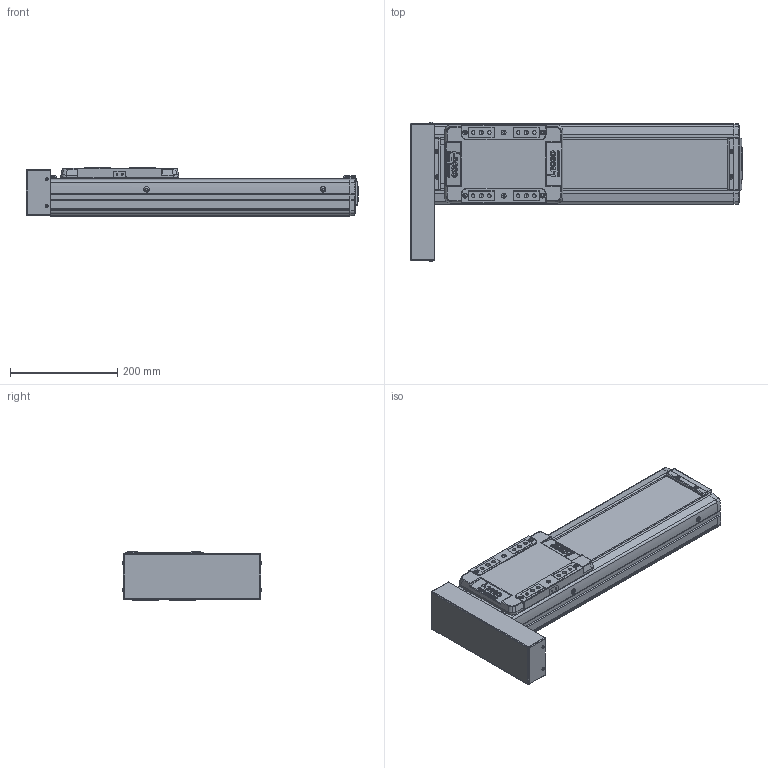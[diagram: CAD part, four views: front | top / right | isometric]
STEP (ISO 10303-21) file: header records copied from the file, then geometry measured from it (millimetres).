
FILE_DESCRIPTION(('STEP AP214'),'1');
FILE_NAME('Z:/Web/3D/SAN150/2013.04 (STP.)/SAN150ㅁㅁ-300PR.stp','2013-05-08T02:14:50',(' '),(' '),'Spatial InterOp 3D',' ',' ');
FILE_SCHEMA(('automotive_design'));
Length unit declared in the file: millimetre
Products named in the file (40): SLBL-SAN150; SLCV-SAN150; FHCS M4.0 x 8.0; BHCS M4.0 x 10.0; SFX-SAN150; RRCV-SAN150; FRBL-SAN150; Spacer; RN15; FRCV-SAN150; Screw 20; BASE-SAN150-000L ; SUS COVER; 스크루 : Round - M5.0 x 6.0; BHCS M3.0 x 6.0; P
Bounding box: 620 x 260.73 x 90 mm (x, y, z)
Volume: 4605898.5 mm3; surface area: 770936.3 mm2
Topology: 40 solids, 40 shells, 2093 faces, 5367 edges, 3424 vertices
Faces by surface type: plane 1029, cylinder 737, cone 234, sphere 60, bspline 21, torus 12
Entity records: 82688 total; most frequent: CARTESIAN_POINT 13286, DIRECTION 11400, ORIENTED_EDGE 10518, EDGE_CURVE 5259, AXIS2_PLACEMENT_3D 4101, VERTEX_POINT 3424, LINE 3198, VECTOR 3198
